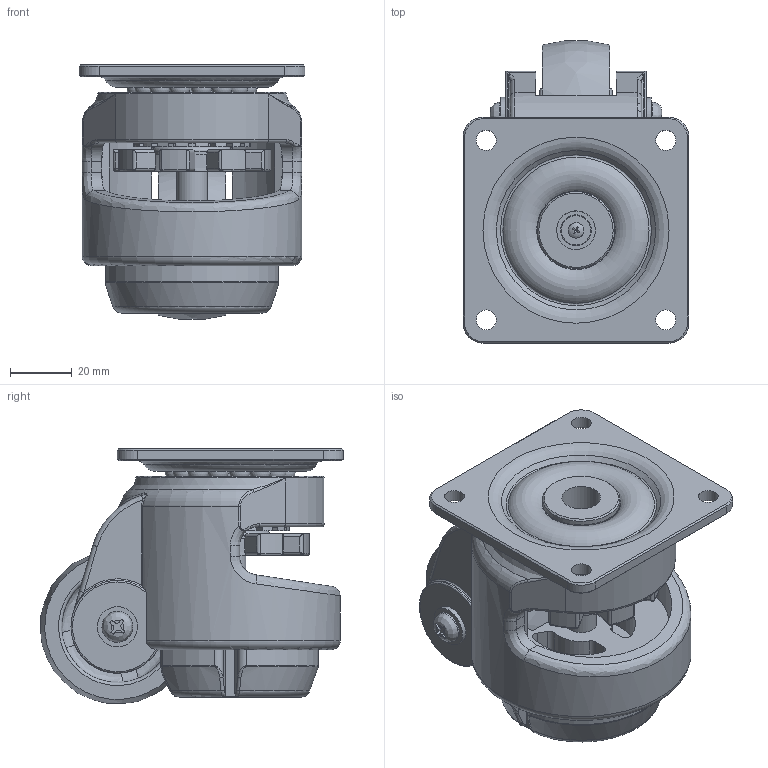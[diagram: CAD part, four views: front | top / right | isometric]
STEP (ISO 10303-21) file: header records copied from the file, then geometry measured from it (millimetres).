
FILE_DESCRIPTION((' '),'2;1');
FILE_NAME('Y:\00. A standard brand\06. 3D Modeling\외부전송용_STEP\CARRYMASTER(STEP)\AC-300FP.stp.stp','2011-11-22T13:35:20',(' '),(' '),' ','ACIS',' ');
FILE_SCHEMA(('CONFIG_CONTROL_DESIGN'));
Length unit declared in the file: millimetre
Products named in the file (1): Y:\00. A standard brand\06. 3D Modeling\외부전송용_STEP\CARRYMASTER(STEP)\AC-300FP.stp.stp
Bounding box: 73 x 97.78 x 82.38 mm (x, y, z)
Volume: 224012.4 mm3; surface area: 80854.8 mm2
Topology: 4 solids, 7 shells, 709 faces, 1895 edges, 1179 vertices
Faces by surface type: plane 273, cylinder 206, bspline 132, torus 42, sphere 32, cone 24
Full cylindrical faces by diameter (mm): 2.05 x1, 2.5 x1, 3 x1, 5 x1, 6.5 x2, 8 x2, 8.5 x1, 10 x5, 10.2 x1, 10.5 x2, 12.5 x1, 13 x2, 19 x2, 19.5 x1, 25 x3, 25.5 x1, 36 x2, 38 x1, 41 x1
Entity records: 29844 total; most frequent: CARTESIAN_POINT 13478, DIRECTION 3353, ORIENTED_EDGE 3348, EDGE_CURVE 1674, AXIS2_PLACEMENT_3D 1325, VERTEX_POINT 1086, EDGE_LOOP 857, FACE_OUTER_BOUND 709
